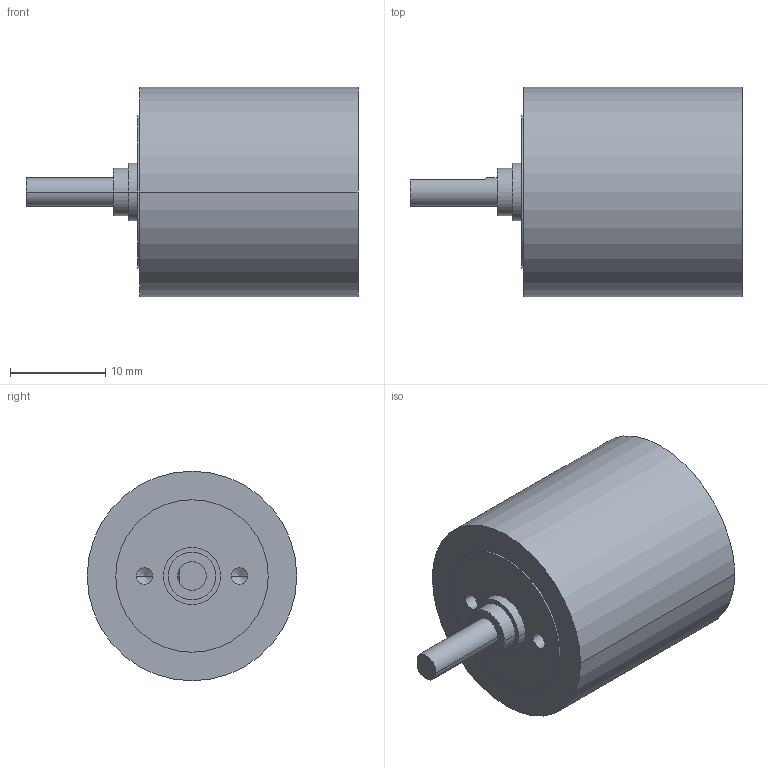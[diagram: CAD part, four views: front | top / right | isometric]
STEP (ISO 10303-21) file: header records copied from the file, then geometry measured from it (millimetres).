
FILE_DESCRIPTION((''),'2;1');
FILE_NAME('1682158','2016-10-04T',('mmagvisi'),(''),'CREO PARAMETRIC BY PTC INC, 2016050','CREO PARAMETRIC BY PTC INC, 2016050','');
FILE_SCHEMA(('CONFIG_CONTROL_DESIGN'));
Length unit declared in the file: millimetre
Products named in the file (1): 1682158
Bounding box: 34.85 x 22 x 22 mm (x, y, z)
Volume: 8039.1 mm3; surface area: 2701.7 mm2
Topology: 1 solids, 1 shells, 32 faces, 68 edges, 42 vertices
Faces by surface type: cylinder 18, plane 10, cone 4
Entity records: 953 total; most frequent: DIRECTION 162, CARTESIAN_POINT 143, ORIENTED_EDGE 128, AXIS2_PLACEMENT_3D 68, EDGE_CURVE 64, COLOUR_RGB 58, VERTEX_POINT 42, EDGE_LOOP 40
